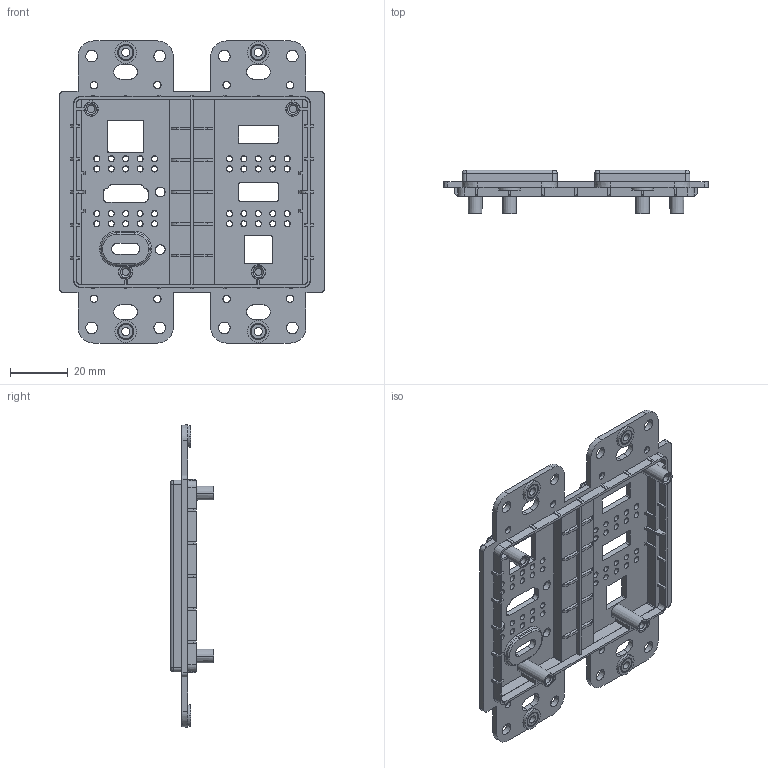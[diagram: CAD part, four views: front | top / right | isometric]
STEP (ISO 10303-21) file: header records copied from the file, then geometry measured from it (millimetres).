
FILE_DESCRIPTION((''),'2;1');
FILE_NAME('000_ASM','2023-07-18T20:27:33',('admin'),(''),'CREO PARAMETRIC BY PTC INC, 2022073','CREO PARAMETRIC BY PTC INC, 2022073','');
FILE_SCHEMA(('CONFIG_CONTROL_DESIGN','SHAPE_APPEARANCE_LAYERS_GROUPS'));
Length unit declared in the file: millimetre
Products named in the file (3): PAN_ABS_20171109; NTU_6_32; 000_ASM
Assembly tree (5 placements, depth 2):
  000_ASM
    PAN_ABS_20171109
    NTU_6_32  x4
Bounding box: 91.8 x 15 x 104.77 mm (x, y, z)
Volume: 19014.8 mm3; surface area: 24879.3 mm2
Topology: 5 solids, 5 shells, 2416 faces, 7111 edges, 4794 vertices
Faces by surface type: plane 1519, cylinder 641, cone 236, torus 12, bspline 8
Entity records: 46113 total; most frequent: CARTESIAN_POINT 6659, ORIENTED_EDGE 6238, DIRECTION 6172, PRESENTATION_STYLE_ASSIGNMENT 3188, STYLED_ITEM 3188, CURVE_STYLE 3186, EDGE_CURVE 3119, VECTOR 2270
